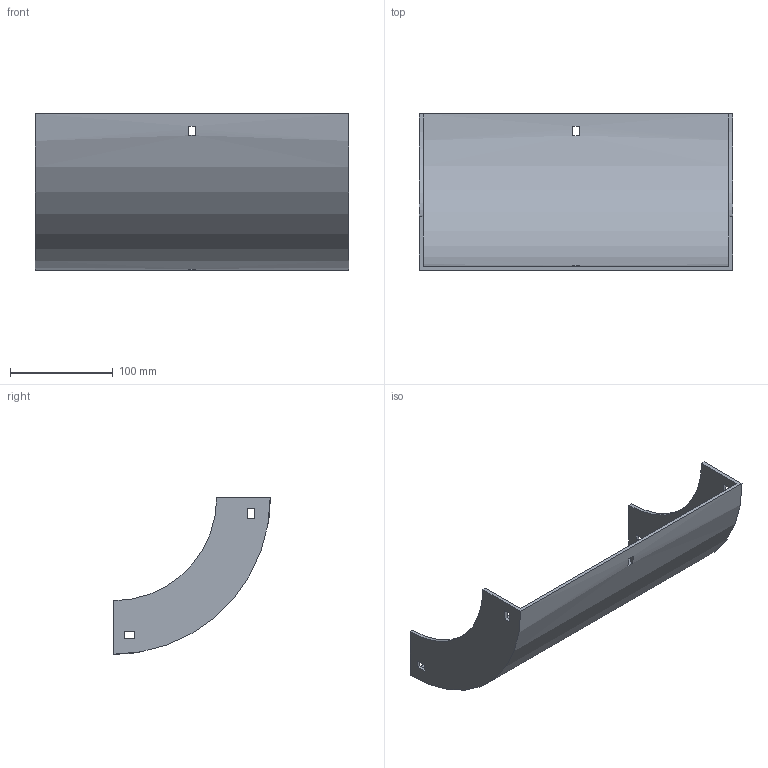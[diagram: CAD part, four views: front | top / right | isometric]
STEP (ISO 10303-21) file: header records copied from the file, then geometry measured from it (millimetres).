
FILE_DESCRIPTION (( 'STEP AP214' ), '1' );
FILE_NAME ('30B1B300.step', '2025-02-21T09:49:39', ( '' ), ( '' ), 'SwSTEP 2.0', 'SolidWorks 2023', '' );
FILE_SCHEMA (( 'AUTOMOTIVE_DESIGN' ));
Length unit declared in the file: millimetre
Products named in the file (1): 30B1B300
Bounding box: 304 x 152 x 152 mm (x, y, z)
Volume: 315985.6 mm3; surface area: 185183.4 mm2
Topology: 1 solids, 1 shells, 34 faces, 96 edges, 64 vertices
Faces by surface type: plane 30, cylinder 4
Entity records: 1143 total; most frequent: CARTESIAN_POINT 195, ORIENTED_EDGE 192, DIRECTION 182, EDGE_CURVE 96, VECTOR 80, LINE 80, VERTEX_POINT 64, AXIS2_PLACEMENT_3D 51
